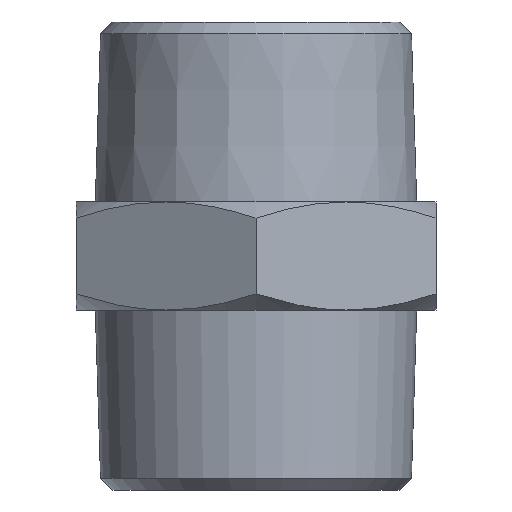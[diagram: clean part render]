
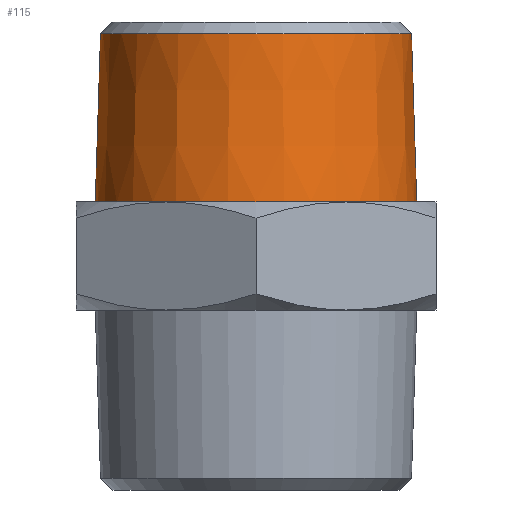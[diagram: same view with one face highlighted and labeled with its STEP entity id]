
A CAD part, left-side view. The second image highlights one B-rep face of the part: STEP entity #115.
In plain terms, the highlighted conical face has half-angle 1.79 degrees and reference radius 13.158 mm.
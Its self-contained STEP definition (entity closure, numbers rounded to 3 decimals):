
#73=CARTESIAN_POINT('',(0.,-12.955,18.5));
#74=VERTEX_POINT('',#73);
#75=CARTESIAN_POINT('',(0.,0.,18.5));
#76=DIRECTION('',(0.0,0.0,1.0));
#77=DIRECTION('',(0.0,1.0,0.0));
#78=AXIS2_PLACEMENT_3D('',#75,#76,#77);
#79=CIRCLE('',#78,12.955);
#80=EDGE_CURVE('',#74,#74,#79,.T.);
#96=CARTESIAN_POINT('',(0.0,0.,12.));
#97=DIRECTION('',(0.0,0.,-1.0));
#98=DIRECTION('',(0.0,-1.0,0.0));
#99=AXIS2_PLACEMENT_3D('',#96,#97,#98);
#100=CONICAL_SURFACE('',#99,13.158,1.79);
#101=CARTESIAN_POINT('',(0.0,-13.392,4.5));
#102=VERTEX_POINT('',#101);
#103=CARTESIAN_POINT('',(0.0,0.,4.5));
#104=DIRECTION('',(0.0,0.0,-1.0));
#105=DIRECTION('',(0.0,-1.0,0.0));
#106=AXIS2_PLACEMENT_3D('',#103,#104,#105);
#107=CIRCLE('',#106,13.392);
#108=EDGE_CURVE('',#102,#102,#107,.T.);
#109=ORIENTED_EDGE('',*,*,#108,.F.);
#110=EDGE_LOOP('',(#109));
#111=FACE_OUTER_BOUND('',#110,.T.);
#112=ORIENTED_EDGE('',*,*,#80,.F.);
#113=EDGE_LOOP('',(#112));
#114=FACE_BOUND('',#113,.T.);
#115=ADVANCED_FACE('',(#111,#114),#100,.T.);
